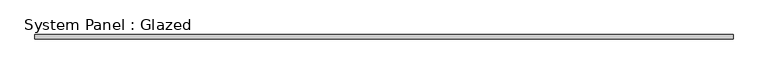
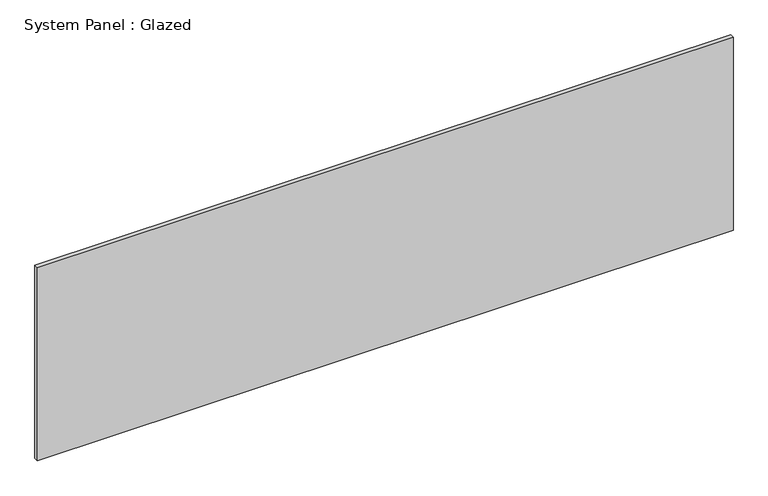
"""IFC4 building model written with IfcOpenShell, lengths in millimetres: plate geometry, System Panel : Glazed."""

from ifc_helpers import new_model, si_unit, origin, origin_with_axes, place, context, project, spatial, polyline, outline, extrude, source, transform, mapped, element, save


def system_panel_glazed_8e9402eb(model_context):
    return source(origin(), model_context, "Body", "SweptSolid", [
        extrude(outline(polyline([(1962.5, 24.5), (-1962.5, 24.5), (-1962.5, 49.5), (1962.5, 49.5), (1962.5, 24.5)])), origin_with_axes(), (0.0, 0.0, 1.0), 1150.0),
    ])


if __name__ == "__main__":
    model = new_model("IFC4")
    model_context = context("Model", 3, world=origin())
    ifc_project = project(units=[si_unit("LENGTHUNIT", "METRE", prefix="MILLI")], contexts=[model_context])
    site = spatial("IfcSite", under=ifc_project)
    building = spatial("IfcBuilding", under=site)
    placement = place(None, origin())
    system_panel_glazed_shape = system_panel_glazed_8e9402eb(model_context)
    element("IfcPlate", 1, ObjectType="System Panel : Glazed", at=placement, inside=building, context=model_context, shape_type="MappedRepresentation", body=[
        mapped(system_panel_glazed_shape, transform((0.0, 0.0, 0.0), x_axis=(1.0, 0.0, 0.0), y_axis=(0.0, 1.0, 0.0), z_axis=(0.0, 0.0, 1.0))),
    ])
    save(model, "model.ifc")
